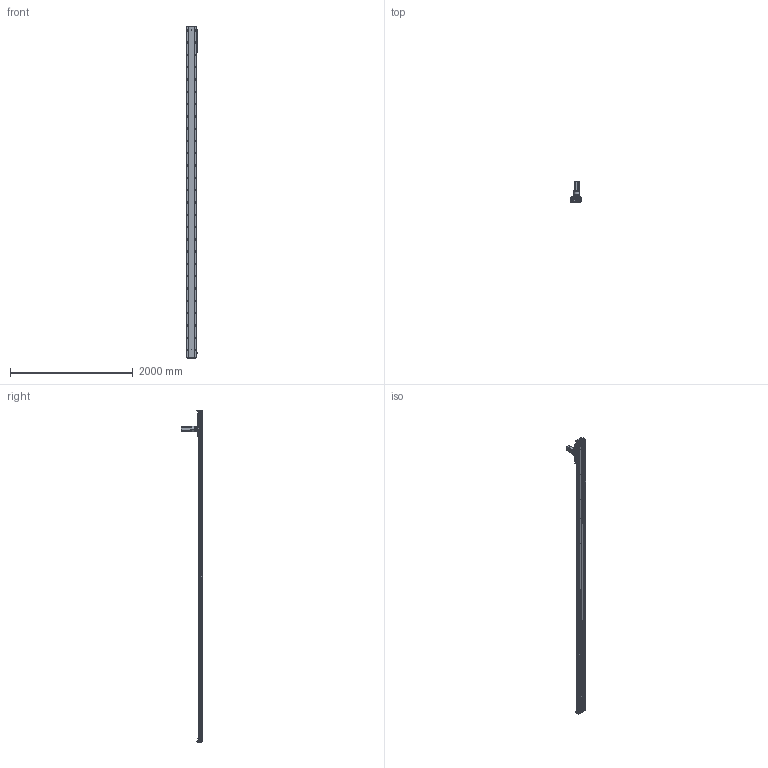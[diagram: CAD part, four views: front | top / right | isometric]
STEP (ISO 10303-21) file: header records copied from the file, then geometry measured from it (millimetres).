
FILE_DESCRIPTION (( 'STEP AP203' ), '1' );
FILE_NAME ('RY170-C-1000-UK.SLDASM_4900.step', '2021-03-03T00:51:31', ( '盈信电脑' ), ( '东莞市道滘镇水果街19号' ), 'SwSTEP 2.0', 'SolidWorks 2012', '' );
FILE_SCHEMA (( 'CONFIG_CONTROL_DESIGN' ));
Products named in the file (13): TF080等撰; RY170-喘沭賑輸; 左旋斜齿齿轮_M2_22齿_内孔20; RY170-喘沭滅袉蝶輸; RY170-C-1000-UK.SLDASM_4900; RY170外置感应片(200共用）; 怢湛750W萇儂ㄗ80遺ㄘ; RY170-喘謫萇儂覃誹啣; 絳寢賑輸EGH20CA; RY170-1000-喘沭耀郪絳寢EGH20CA_4900; RY170綴裔啣ㄗ蜊秶ㄘ; 覜茼ん672; RY170-1000齿条模组型材底座_4900
Assembly tree (22 placements, depth 2):
  RY170-C-1000-UK.SLDASM_4900
    RY170-1000齿条模组型材底座_4900
    絳寢賑輸EGH20CA  x6
    RY170-1000-喘沭耀郪絳寢EGH20CA_4900  x2
    RY170綴裔啣ㄗ蜊秶ㄘ  x2
    覜茼ん672  x3
    RY170外置感应片(200共用）
    RY170-喘謫萇儂覃誹啣
    怢湛750W萇儂ㄗ80遺ㄘ
    RY170-喘沭滅袉蝶輸  x2
    TF080等撰
    左旋斜齿齿轮_M2_22齿_内孔20
    RY170-喘沭賑輸
Bounding box: 188.7 x 343.5 x 5400 mm (x, y, z)
Volume: 25082560.3 mm3; surface area: 6680154.6 mm2
Topology: 24 solids, 24 shells, 5887 faces, 17050 edges, 10787 vertices
Faces by surface type: cylinder 2674, plane 2593, cone 566, bspline 50, torus 4
Entity records: 143304 total; most frequent: CARTESIAN_POINT 36757, ORIENTED_EDGE 22686, DIRECTION 21516, EDGE_CURVE 11343, AXIS2_PLACEMENT_3D 8145, VERTEX_POINT 7365, LINE 5226, VECTOR 5226
